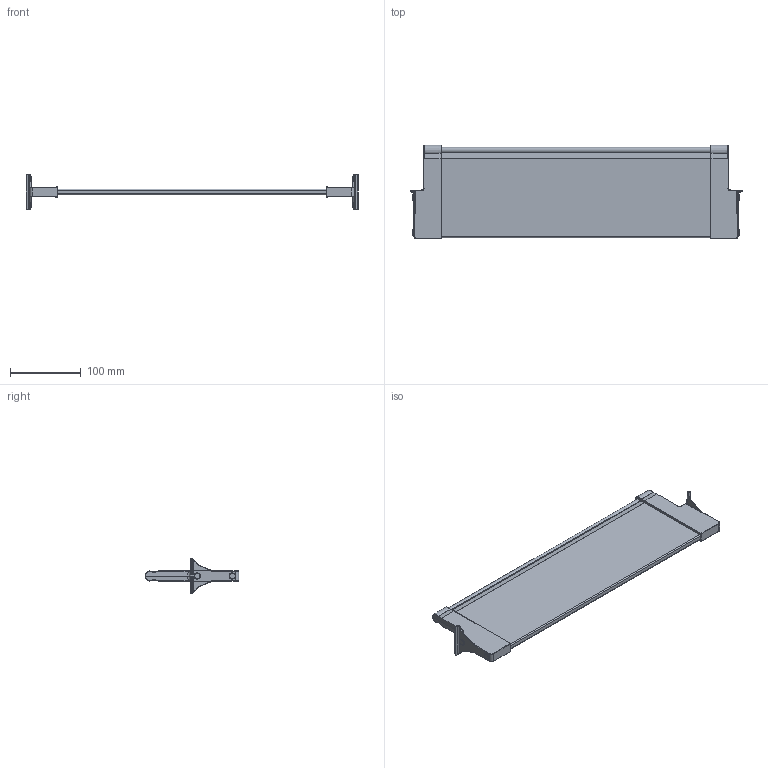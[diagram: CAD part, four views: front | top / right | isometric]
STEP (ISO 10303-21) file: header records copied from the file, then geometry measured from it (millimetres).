
FILE_DESCRIPTION (( 'STEP AP214' ), '1' );
FILE_NAME ('Nova-Pro P622 Querteiler H90Nova PRO Querteiler_H90_KAB 550_16.step', '2009-11-06T06:59:27', ( 'Waldinger Reinhard' ), ( 'Grass GmbH' ), 'SwSTEP 2.0', 'SolidWorks 2009', '' );
FILE_SCHEMA (( 'AUTOMOTIVE_DESIGN' ));
Length unit declared in the file: millimetre
Products named in the file (1): Nova-Pro P622 Querteiler H90Nova PRO Querteiler_H90_KAB 550_16
Bounding box: 468.1 x 132 x 49.97 mm (x, y, z)
Volume: 501615.8 mm3; surface area: 128261.8 mm2
Topology: 1 solids, 1 shells, 248 faces, 578 edges, 334 vertices
Faces by surface type: cylinder 107, bspline 64, plane 51, torus 12, sphere 12, cone 2
Entity records: 11002 total; most frequent: CARTESIAN_POINT 5879, ORIENTED_EDGE 1148, DIRECTION 966, EDGE_CURVE 574, AXIS2_PLACEMENT_3D 369, VERTEX_POINT 334, EDGE_LOOP 254, ADVANCED_FACE 248
